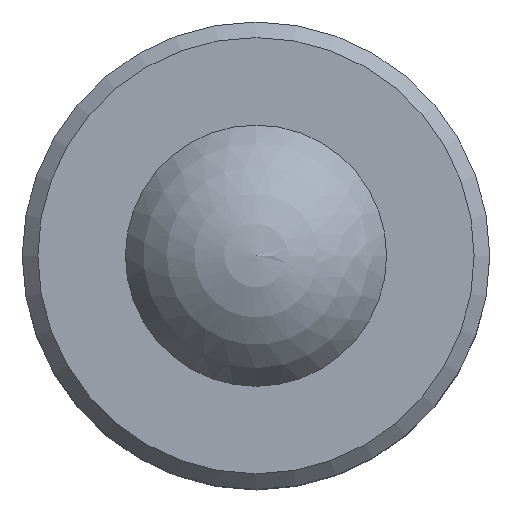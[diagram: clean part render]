
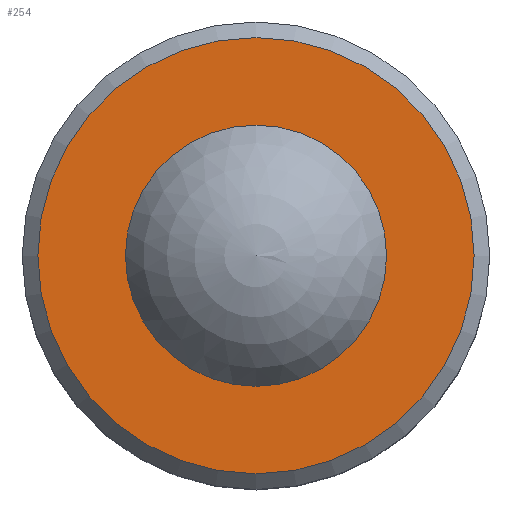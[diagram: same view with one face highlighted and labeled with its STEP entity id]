
A CAD part, top view. The second image highlights one B-rep face of the part: STEP entity #254.
In plain terms, the highlighted planar face has unit normal (0, 0, 1).
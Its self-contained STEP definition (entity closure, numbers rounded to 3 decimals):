
#27=FACE_BOUND('',#79,.T.);
#53=FACE_OUTER_BOUND('',#78,.T.);
#78=EDGE_LOOP('',(#221));
#79=EDGE_LOOP('',(#222));
#118=CIRCLE('',#294,7.);
#119=CIRCLE('',#296,4.191);
#141=VERTEX_POINT('',#452);
#142=VERTEX_POINT('',#455);
#170=EDGE_CURVE('',#141,#141,#118,.T.);
#171=EDGE_CURVE('',#142,#142,#119,.T.);
#221=ORIENTED_EDGE('',*,*,#170,.F.);
#222=ORIENTED_EDGE('',*,*,#171,.T.);
#238=PLANE('',#295);
#254=ADVANCED_FACE('',(#53,#27),#238,.T.);
#294=AXIS2_PLACEMENT_3D('',#453,#366,#367);
#295=AXIS2_PLACEMENT_3D('',#454,#368,#369);
#296=AXIS2_PLACEMENT_3D('',#456,#370,#371);
#366=DIRECTION('center_axis',(0.,0.,-1.));
#367=DIRECTION('ref_axis',(1.,0.,0.));
#368=DIRECTION('center_axis',(0.,0.,1.));
#369=DIRECTION('ref_axis',(1.,0.,0.));
#370=DIRECTION('center_axis',(0.,0.,-1.));
#371=DIRECTION('ref_axis',(1.,0.,0.));
#452=CARTESIAN_POINT('',(-7.,0.,2.263));
#453=CARTESIAN_POINT('Origin',(0.,0.,2.263));
#454=CARTESIAN_POINT('Origin',(-7.5,0.,2.263));
#455=CARTESIAN_POINT('',(-4.191,0.,2.263));
#456=CARTESIAN_POINT('Origin',(0.,0.,2.263));
